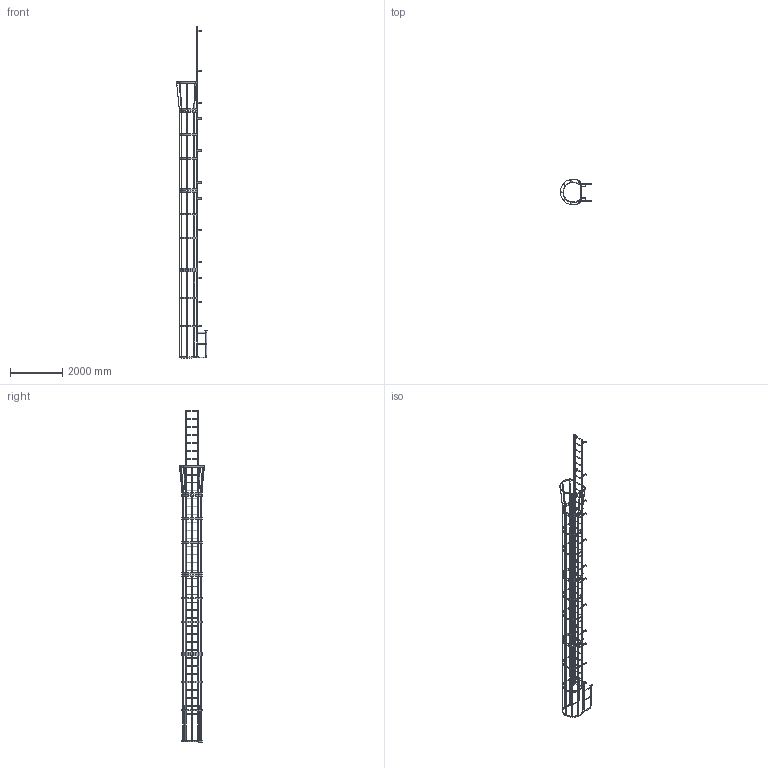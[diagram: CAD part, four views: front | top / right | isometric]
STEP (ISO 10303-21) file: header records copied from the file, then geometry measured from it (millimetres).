
FILE_DESCRIPTION(/* description */ (''),/* implementation_level */ '2;1');
FILE_NAME(/* name */ 'C:\Vault Working Folder\Company\Cotterman\3057\3570400 F39WC SIMPLIFIED PART.stp',/* time_stamp */ '2020-05-07T14:14:43-04:00',/* author */ ('karen'),/* organization */ (''),/* preprocessor_version */ 'ST-DEVELOPER v18',/* originating_system */ 'Autodesk Inventor 2020',/* authorisation */ '');
FILE_SCHEMA (('AUTOMOTIVE_DESIGN { 1 0 10303 214 3 1 1 }'));
Length unit declared in the file: centimetre
Products named in the file (1): 3570400 F39WC SIMPLIFIED PART
Bounding box: 1195.62 x 977.88 x 12696.83 mm (x, y, z)
Volume: 44212594.2 mm3; surface area: 16592170.1 mm2
Topology: 52 solids, 52 shells, 1409 faces, 4412 edges, 2886 vertices
Faces by surface type: plane 928, cylinder 473, torus 8
Full cylindrical faces by diameter (mm): 10.319 x4, 14.287 x30, 19.05 x39, 22.098 x10, 22.225 x78, 25.4 x8
Entity records: 52104 total; most frequent: CARTESIAN_POINT 9176, ORIENTED_EDGE 8912, DIRECTION 8576, EDGE_CURVE 4456, LINE 3108, VECTOR 3108, VERTEX_POINT 2902, AXIS2_PLACEMENT_3D 2734
